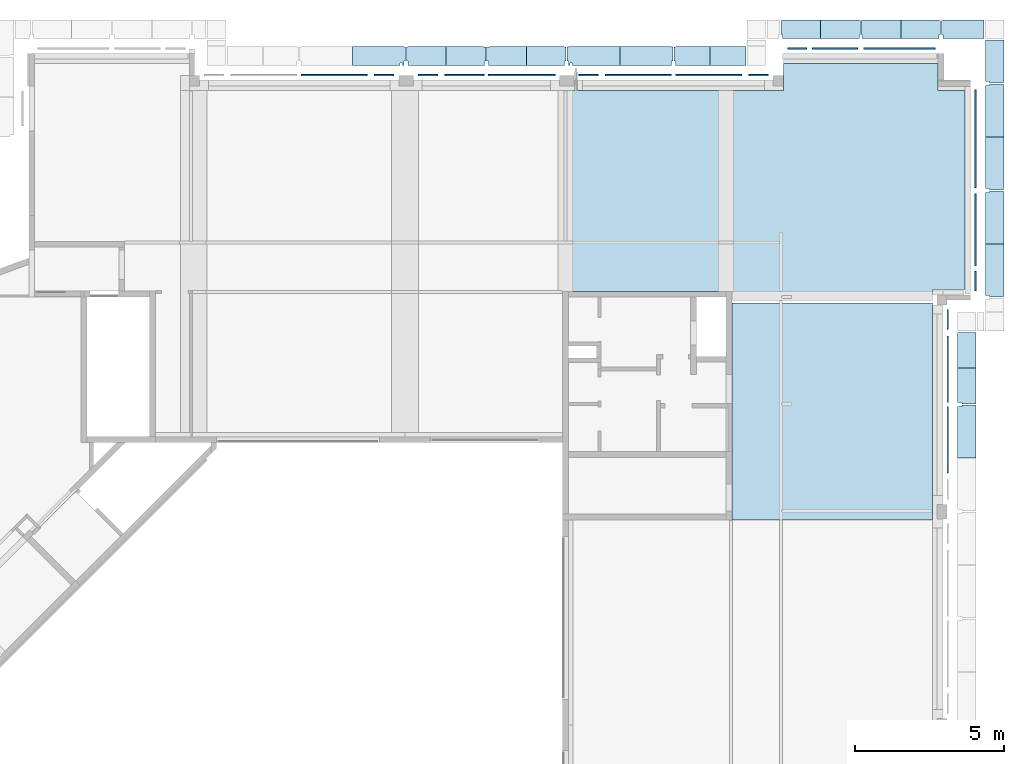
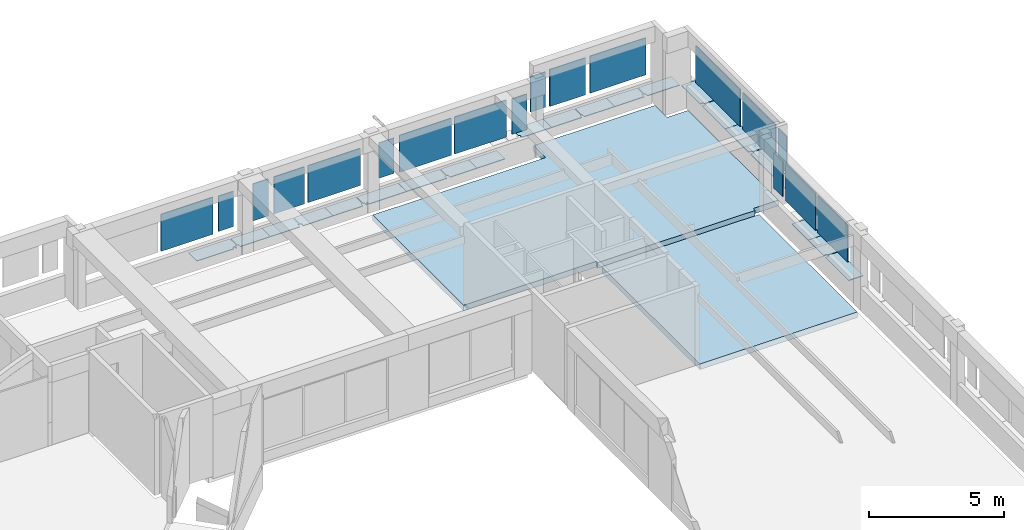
# One storey, part 9 of 26: 24 slabs, 18 plates.
"""IFC4X3_ADD2 building model written with IfcOpenShell, lengths in millimetres."""

from ifc_helpers import new_model, si_unit, direction, frame, frame_2d, origin_with_axes, origin_2d_with_axis, place, context, subcontext, project, spatial, polyline, rectangle, outline, extrude, source, transform, mapped, material, type_object, element, save


model = new_model("IFC4X3_ADD2")

# Units and contexts
model_context = context("Model", 3, precision=1e-05, world=origin_with_axes(), true_north=direction((0.0, 1.0)))
body_context = subcontext(model_context, "Body", "Model", "MODEL_VIEW")
ifc_project = project(units=[si_unit("LENGTHUNIT", "METRE", prefix="MILLI"), si_unit("AREAUNIT", "SQUARE_METRE"), si_unit("VOLUMEUNIT", "CUBIC_METRE"), si_unit("PLANEANGLEUNIT", "RADIAN"), si_unit("TIMEUNIT", "SECOND"), si_unit("MASSUNIT", "GRAM")], contexts=[model_context])

# Site, building, storey
site_placement = place(None, origin_with_axes())
site = spatial("IfcSite", under=ifc_project, at=site_placement, Name="Site", CompositionType="ELEMENT")
building_placement = place(site_placement, origin_with_axes())
building = spatial("IfcBuilding", under=site, at=building_placement, Name="IFC Building Story")
storey_placement = place(building_placement, frame((0.0, 0.0, 7200.0), z_axis=(0.0, 0.0, 1.0), x_axis=(1.0, 0.0, 0.0)))
storey = spatial("IfcBuildingStorey", under=building, at=storey_placement, Name="020", Elevation=7200.0)

# Plates
ifc_material_1 = material(Name="BB_Glas")
shared_shape_1 = source(origin_with_axes(), body_context, "Body", "SweptSolid", [
    extrude(rectangle(XDim=1602.000000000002, YDim=652.000000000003, at=frame_2d((0.0, 0.0), x_axis=(0.0, 1.0))), frame((0.0, 0.0, -44.0), z_axis=(0.0, 0.0, 1.0), x_axis=(1.0, 0.0, 0.0)), (0.0, 0.0, 1.0), 44.0),
])
plate_1_placement = place(storey_placement, frame((1222.50000000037, 44044.0, 1765.0), z_axis=(1.0, 0.0, 0.0), x_axis=(0.0, 1.0, 0.0)))
element("IfcPlate", 1, at=plate_1_placement, inside=storey, material=ifc_material_1, Name="BB_07.06_Buitenbeglazing, rechthoekig_GMO:07.06.72#01_Drievoudige beglazing, 44 mm, A/A*/A", ObjectType="BB_07.06_Buitenbeglazing, rechthoekig_GMO:07.06.72#01_Drievoudige beglazing, 44 mm, A/A*/A", PredefinedType="USERDEFINED", context=body_context, shape_type="MappedRepresentation", body=[
    mapped(shared_shape_1, transform((0.0, 0.0, 0.0))),
])
shared_shape_2 = source(origin_with_axes(), body_context, "Body", "SweptSolid", [
    extrude(rectangle(XDim=2432.0, YDim=1680.000000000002, at=origin_2d_with_axis()), frame((0.0, 0.0, -44.0), z_axis=(0.0, 0.0, 1.0), x_axis=(1.0, 0.0, 0.0)), (0.0, 0.0, 1.0), 44.0),
])
plate_2_placement = place(storey_placement, frame((1222.50000000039, 45764.0, 1765.0), z_axis=(1.0, 0.0, 0.0), x_axis=(0.0, 1.0, 0.0)))
element("IfcPlate", 2, at=plate_2_placement, inside=storey, material=ifc_material_1, Name="BB_07.06_Buitenbeglazing, rechthoekig_GMO:07.06.72#01_Drievoudige beglazing, 44 mm, A/A*/A", ObjectType="BB_07.06_Buitenbeglazing, rechthoekig_GMO:07.06.72#01_Drievoudige beglazing, 44 mm, A/A*/A", PredefinedType="USERDEFINED", context=body_context, shape_type="MappedRepresentation", body=[
    mapped(shared_shape_2, transform((0.0, 0.0, 0.0))),
])
shared_shape_3 = source(origin_with_axes(), body_context, "Body", "SweptSolid", [
    extrude(rectangle(XDim=1602.000000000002, YDim=652.0000000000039, at=frame_2d((0.0, 0.0), x_axis=(0.0, 1.0))), frame((0.0, 0.0, -44.0), z_axis=(0.0, 0.0, 1.0), x_axis=(1.0, 0.0, 0.0)), (0.0, 0.0, 1.0), 44.0),
])
for number, where, z_axis, x_axis in (
    (3, (287.500000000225, 42736.0, 1765.0), (1.0, 0.0, 0.0), (0.0, -1.0, 0.0)),
    (4, (-4801.0, 51887.5000000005, 1765.0), (0.0, 1.0, 0.0), (1.0, 0.0, 0.0)),
    (5, (-11821.0, 50987.5000000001, 1765.0), (0.0, 1.0, 0.0), (1.0, 0.0, 0.0)),
    (6, (-6109.0, 50987.5000000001, 1765.0), (0.0, 1.0, 0.0), (1.0, 0.0, 0.0)),
    (7, (-18709.0, 50987.5000000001, 1765.0), (0.0, 1.0, 0.0), (1.0, 0.0, 0.0)),
):
    element("IfcPlate", number, at=place(storey_placement, frame(where, z_axis=z_axis, x_axis=x_axis)), inside=storey, material=ifc_material_1, Name="BB_07.06_Buitenbeglazing, rechthoekig_GMO:07.06.72#01_Drievoudige beglazing, 44 mm, A/A*/A", ObjectType="BB_07.06_Buitenbeglazing, rechthoekig_GMO:07.06.72#01_Drievoudige beglazing, 44 mm, A/A*/A", PredefinedType="USERDEFINED", context=body_context, shape_type="MappedRepresentation", body=[
        mapped(shared_shape_3, transform((0.0, 0.0, 0.0))),
    ])
shared_shape_4 = source(origin_with_axes(), body_context, "Body", "SweptSolid", [
    extrude(rectangle(XDim=1680.000000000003, YDim=1532.000000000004, at=frame_2d((0.0, 0.0), x_axis=(0.0, 1.0))), frame((0.0, 0.0, -44.0), z_axis=(0.0, 0.0, 1.0), x_axis=(1.0, 0.0, 0.0)), (0.0, 0.0, 1.0), 44.0),
])
plate_3_placement = place(storey_placement, frame((-3531.0, 51887.5000000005, 1765.0), z_axis=(0.0, 1.0, 0.0), x_axis=(1.0, 0.0, 0.0)))
element("IfcPlate", 8, at=plate_3_placement, inside=storey, material=ifc_material_1, Name="BB_07.06_Buitenbeglazing, rechthoekig_GMO:07.06.72#01_Drievoudige beglazing, 44 mm, A/A*/A", ObjectType="BB_07.06_Buitenbeglazing, rechthoekig_GMO:07.06.72#01_Drievoudige beglazing, 44 mm, A/A*/A", PredefinedType="USERDEFINED", context=body_context, shape_type="MappedRepresentation", body=[
    mapped(shared_shape_4, transform((0.0, 0.0, 0.0))),
])
shared_shape_5 = source(origin_with_axes(), body_context, "Body", "SweptSolid", [
    extrude(rectangle(XDim=2400.0, YDim=1680.000000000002, at=origin_2d_with_axis()), frame((0.0, 0.0, -44.0), z_axis=(0.0, 0.0, 1.0), x_axis=(1.0, 0.0, 0.0)), (0.0, 0.0, 1.0), 44.0),
])
plate_4_placement = place(storey_placement, frame((-1365.0, 51887.5000000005, 1765.0), z_axis=(0.0, 1.0, 0.0), x_axis=(1.0, 0.0, 0.0)))
element("IfcPlate", 9, at=plate_4_placement, inside=storey, material=ifc_material_1, Name="BB_07.06_Buitenbeglazing, rechthoekig_GMO:07.06.72#01_Drievoudige beglazing, 44 mm, A/A*/A", ObjectType="BB_07.06_Buitenbeglazing, rechthoekig_GMO:07.06.72#01_Drievoudige beglazing, 44 mm, A/A*/A", PredefinedType="USERDEFINED", context=body_context, shape_type="MappedRepresentation", body=[
    mapped(shared_shape_5, transform((0.0, 0.0, 0.0))),
])
shared_shape_6 = source(origin_with_axes(), body_context, "Body", "SweptSolid", [
    extrude(rectangle(XDim=2222.0, YDim=1680.000000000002, at=origin_2d_with_axis()), frame((0.0, 0.0, -44.0), z_axis=(0.0, 0.0, 1.0), x_axis=(1.0, 0.0, 0.0)), (0.0, 0.0, 1.0), 44.0),
])
for number, where, z_axis, x_axis in (
    (10, (287.500000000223, 41061.0, 1765.0), (1.0, 0.0, 0.0), (0.0, -1.0, 0.0)),
    (11, (287.50000000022, 38699.0, 1765.0), (1.0, 0.0, 0.0), (0.0, -1.0, 0.0)),
    (12, (-10146.0, 50987.5000000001, 1765.0), (0.0, 1.0, 0.0), (1.0, 0.0, 0.0)),
    (13, (-7784.0, 50987.5000000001, 1765.0), (0.0, 1.0, 0.0), (1.0, 0.0, 0.0)),
    (14, (-20384.0, 50987.5000000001, 1765.0), (0.0, 1.0, 0.0), (1.0, 0.0, 0.0)),
):
    element("IfcPlate", number, at=place(storey_placement, frame(where, z_axis=z_axis, x_axis=x_axis)), inside=storey, material=ifc_material_1, Name="BB_07.06_Buitenbeglazing, rechthoekig_GMO:07.06.72#01_Drievoudige beglazing, 44 mm, A/A*/A", ObjectType="BB_07.06_Buitenbeglazing, rechthoekig_GMO:07.06.72#01_Drievoudige beglazing, 44 mm, A/A*/A", PredefinedType="USERDEFINED", context=body_context, shape_type="MappedRepresentation", body=[
        mapped(shared_shape_6, transform((0.0, 0.0, 0.0))),
    ])
shared_shape_7 = source(origin_with_axes(), body_context, "Body", "SweptSolid", [
    extrude(rectangle(XDim=3300.0, YDim=1680.000000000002, at=origin_2d_with_axis()), frame((0.0, 0.0, -44.0), z_axis=(0.0, 0.0, 1.0), x_axis=(1.0, 0.0, 0.0)), (0.0, 0.0, 1.0), 44.0),
])
plate_5_placement = place(storey_placement, frame((1222.50000000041, 48830.0, 1765.0), z_axis=(1.0, 0.0, 0.0), x_axis=(0.0, 1.0, 0.0)))
element("IfcPlate", 15, at=plate_5_placement, inside=storey, material=ifc_material_1, Name="BB_07.06_Buitenbeglazing, rechthoekig_GMO:07.06.72#01_Drievoudige beglazing, 44 mm, A/A*/A", ObjectType="BB_07.06_Buitenbeglazing, rechthoekig_GMO:07.06.72#01_Drievoudige beglazing, 44 mm, A/A*/A", PredefinedType="USERDEFINED", context=body_context, shape_type="MappedRepresentation", body=[
    mapped(shared_shape_7, transform((0.0, 0.0, 0.0))),
])
shared_shape_8 = source(origin_with_axes(), body_context, "Body", "SweptSolid", [
    extrude(rectangle(XDim=2250.0, YDim=1680.000000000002, at=origin_2d_with_axis()), frame((0.0, 0.0, -44.0), z_axis=(0.0, 0.0, 1.0), x_axis=(1.0, 0.0, 0.0)), (0.0, 0.0, 1.0), 44.0),
])
plate_6_placement = place(storey_placement, frame((-14070.0, 50987.5000000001, 1765.0), z_axis=(0.0, 1.0, 0.0), x_axis=(-1.0, 0.0, 0.0)))
element("IfcPlate", 16, at=plate_6_placement, inside=storey, material=ifc_material_1, Name="BB_07.06_Buitenbeglazing, rechthoekig_GMO:07.06.72#01_Drievoudige beglazing, 44 mm, A/A*/A", ObjectType="BB_07.06_Buitenbeglazing, rechthoekig_GMO:07.06.72#01_Drievoudige beglazing, 44 mm, A/A*/A", PredefinedType="USERDEFINED", context=body_context, shape_type="MappedRepresentation", body=[
    mapped(shared_shape_8, transform((0.0, 0.0, 0.0))),
])
shared_shape_9 = source(origin_with_axes(), body_context, "Body", "SweptSolid", [
    extrude(rectangle(XDim=1680.000000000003, YDim=1322.000000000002, at=frame_2d((0.0, 0.0), x_axis=(0.0, 1.0))), frame((0.0, 0.0, -44.0), z_axis=(0.0, 0.0, 1.0), x_axis=(1.0, 0.0, 0.0)), (0.0, 0.0, 1.0), 44.0),
])
plate_7_placement = place(storey_placement, frame((-15996.0, 50987.5000000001, 1765.0), z_axis=(0.0, 1.0, 0.0), x_axis=(-1.0, 0.0, 0.0)))
element("IfcPlate", 17, at=plate_7_placement, inside=storey, material=ifc_material_1, Name="BB_07.06_Buitenbeglazing, rechthoekig_GMO:07.06.72#01_Drievoudige beglazing, 44 mm, A/A*/A", ObjectType="BB_07.06_Buitenbeglazing, rechthoekig_GMO:07.06.72#01_Drievoudige beglazing, 44 mm, A/A*/A", PredefinedType="USERDEFINED", context=body_context, shape_type="MappedRepresentation", body=[
    mapped(shared_shape_9, transform((0.0, 0.0, 0.0))),
])
shared_shape_10 = source(origin_with_axes(), body_context, "Body", "SweptSolid", [
    extrude(rectangle(XDim=1680.000000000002, YDim=652.000000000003, at=frame_2d((0.0, 0.0), x_axis=(0.0, 1.0))), frame((0.0, 0.0, -44.0), z_axis=(0.0, 0.0, 1.0), x_axis=(1.0, 0.0, 0.0)), (0.0, 0.0, 1.0), 44.0),
])
plate_8_placement = place(storey_placement, frame((-17221.0, 50987.5000000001, 1765.0), z_axis=(0.0, 1.0, 0.0), x_axis=(-1.0, 0.0, 0.0)))
element("IfcPlate", 18, at=plate_8_placement, inside=storey, material=ifc_material_1, Name="BB_07.06_Buitenbeglazing, rechthoekig_GMO:07.06.72#01_Drievoudige beglazing, 44 mm, A/A*/A", ObjectType="BB_07.06_Buitenbeglazing, rechthoekig_GMO:07.06.72#01_Drievoudige beglazing, 44 mm, A/A*/A", PredefinedType="USERDEFINED", context=body_context, shape_type="MappedRepresentation", body=[
    mapped(shared_shape_10, transform((0.0, 0.0, 0.0))),
])

# Slabs
ifc_material_2 = material(Name="BB_Beton_Bestaand")
slab_type_1 = type_object("IfcSlabType", Name="BB_Beton_Bestaand 260", PredefinedType="FLOOR", material=ifc_material_2)
slab_1_placement = place(storey_placement, frame((-6999.99999999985, 43295.00000000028, -460.0), z_axis=(0.0, 0.0, 1.0), x_axis=(0.0, -1.0, 0.0)))
element("IfcSlab", 19, at=slab_1_placement, inside=storey, type_object=slab_type_1, Name="Floor:BB_XX_Vloer welfsels, 260 mm", ObjectType="Floor:BB_XX_Vloer welfsels, 260 mm", PredefinedType="FLOOR", context=body_context, shape_type="SweptSolid", body=[
    extrude(rectangle(XDim=7295.000000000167, YDim=6755.00000000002, at=frame_2d((0.0, 0.0), x_axis=(-1.0, 0.0))), frame((3647.500000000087, 3377.500000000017, 0.0), z_axis=(0.0, 0.0, 1.0), x_axis=(1.0, 0.0, 0.0)), (0.0, 0.0, 1.0), 260.0),
])
slab_2_placement = place(storey_placement, frame((-12700.00406588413, 43595.00000000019, -460.0), z_axis=(0.0, 0.0, 1.0), x_axis=(1.0, 0.0, 0.0)))
element("IfcSlab", 20, at=slab_2_placement, inside=storey, type_object=slab_type_1, Name="Floor:BB_XX_Vloer welfsels, 260 mm", ObjectType="Floor:BB_XX_Vloer welfsels, 260 mm", PredefinedType="FLOOR", context=body_context, shape_type="SweptSolid", body=[
    extrude(outline(polyline([(-2927.499322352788, -3620.833333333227), (-2927.499322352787, -3525.833333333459), (-8627.503388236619, -3525.833333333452), (-8627.503388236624, 3239.166666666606), (-1197.499322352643, 3239.166666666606), (-1197.499322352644, 4139.166666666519), (4012.500677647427, 4139.166666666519), (4012.500677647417, 3239.166666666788), (4912.500677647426, 3239.166666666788), (4912.500677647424, -3470.833333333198), (3827.500677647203, -3470.833333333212), (3827.500677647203, -3620.833333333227), (-2927.499322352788, -3620.833333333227)])), frame((8627.503388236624, 3620.833333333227, 0.0), z_axis=(0.0, 0.0, 1.0), x_axis=(1.0, 0.0, 0.0)), (0.0, 0.0, 1.0), 260.0),
])
ifc_material_3 = material(Name="Steel, Galvanized - looprooster")
slab_type_2 = type_object("IfcSlabType", Name="Steel, Galvanized - looprooster 30", PredefinedType="FLOOR", material=ifc_material_3)
slab_3_placement = place(storey_placement, frame((-19764.49796376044, 51289.99839785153, -350.0), z_axis=(0.0, 0.0, 1.0), x_axis=(1.0, 0.0, 0.0)))
element("IfcSlab", 21, at=slab_3_placement, inside=storey, type_object=slab_type_2, Name="Floor:GVH - Looprooster 30 mm", ObjectType="Floor:GVH - Looprooster 30 mm", PredefinedType="FLOOR", context=body_context, shape_type="SweptSolid", body=[
    extrude(outline(polyline([(178.0813454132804, -156.6647847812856), (178.0813454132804, -246.6679890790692), (-1421.416654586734, -246.6679890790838), (-1421.416654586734, 383.3320109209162), (311.0912729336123, 383.3320109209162), (311.0912729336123, 368.3342997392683), (363.0813454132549, 368.3342997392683), (363.0813454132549, -101.6655477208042), (311.081345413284, -101.6655477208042), (311.081345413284, -246.6679890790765), (258.0813454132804, -246.6679890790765), (258.0813454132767, -156.6647847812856), (178.0813454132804, -156.6647847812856)])), frame((1421.416654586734, 246.6679890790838, 0.0), z_axis=(0.0, 0.0, 1.0), x_axis=(1.0, 0.0, 0.0)), (0.0, 0.0, 1.0), 29.9999999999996),
])
slab_4_placement = place(storey_placement, frame((-16614.99796376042, 51289.99839785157, -350.0), z_axis=(0.0, 0.0, 1.0), x_axis=(1.0, 0.0, 0.0)))
element("IfcSlab", 22, at=slab_4_placement, inside=storey, type_object=slab_type_2, Name="Floor:GVH - Looprooster 30 mm", ObjectType="Floor:GVH - Looprooster 30 mm", PredefinedType="FLOOR", context=body_context, shape_type="SweptSolid", body=[
    extrude(outline(polyline([(316.4994999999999, -202.4986040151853), (316.4994999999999, -347.5010453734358), (-966.4985000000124, -347.5010453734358), (-966.4985000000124, 282.4989546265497), (281.499500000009, 282.4989546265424), (281.499500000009, 267.5006947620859), (368.4995000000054, 267.5006947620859), (368.4995000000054, -202.4986040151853), (316.4994999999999, -202.4986040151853)])), frame((966.4985000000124, 347.5010453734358, 0.0), z_axis=(0.0, 0.0, 1.0), x_axis=(1.0, 0.0, 0.0)), (0.0, 0.0, 1.0), 29.99999999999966),
])
slab_5_placement = place(storey_placement, frame((-4015.00196376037, 52189.99783771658, -350.0), z_axis=(0.0, 0.0, 1.0), x_axis=(1.0, 0.0, 0.0)))
element("IfcSlab", 23, at=slab_5_placement, inside=storey, type_object=slab_type_2, Name="Floor:GVH - Looprooster 30 mm", ObjectType="Floor:GVH - Looprooster 30 mm", PredefinedType="FLOOR", context=body_context, shape_type="SweptSolid", body=[
    extrude(outline(polyline([(323.7503861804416, -202.4983239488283), (323.7503861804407, -347.5013254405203), (-976.2514740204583, -347.5013254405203), (-976.2514740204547, 282.4986745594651), (293.7505618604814, 282.4986745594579), (293.7505618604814, 267.5009748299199), (358.7505259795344, 267.5009748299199), (358.7505259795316, -202.4983239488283), (323.7503861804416, -202.4983239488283)])), frame((976.2514740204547, 347.5013254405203, 0.0), z_axis=(0.0, 0.0, 1.0), x_axis=(1.0, 0.0, 0.0)), (0.0, 0.0, 1.0), 29.99999999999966),
])
slab_6_placement = place(storey_placement, frame((589.998741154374, 41102.49796376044, -350.0), z_axis=(0.0, 0.0, 1.0), x_axis=(0.0, -1.0, 0.0)))
element("IfcSlab", 24, at=slab_6_placement, inside=storey, type_object=slab_type_2, Name="Floor:GVH - Looprooster 30 mm", ObjectType="Floor:GVH - Looprooster 30 mm", PredefinedType="FLOOR", context=body_context, shape_type="SweptSolid", body=[
    extrude(outline(polyline([(327.8744999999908, -202.4983463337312), (275.8744999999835, -202.4983463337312), (275.8744999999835, -347.5004367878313), (-879.6234999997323, -347.5004367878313), (-879.6234999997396, 282.4992199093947), (275.8744999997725, 282.4992199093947), (275.8744999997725, 267.4995632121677), (327.8744999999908, 267.4995632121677), (327.8744999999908, -202.4983463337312)])), frame((879.6234999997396, 347.5004367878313, 0.0), z_axis=(0.0, 0.0, 1.0), x_axis=(1.0, 0.0, 0.0)), (0.0, 0.0, 1.0), 29.99999999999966),
])
slab_7_placement = place(storey_placement, frame((-17949.99596376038, 51289.99839785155, -350.0), z_axis=(0.0, 0.0, 1.0), x_axis=(1.0, 0.0, 0.0)))
element("IfcSlab", 25, at=slab_7_placement, inside=storey, type_object=slab_type_2, Name="Floor:GVH - Looprooster 30 mm", ObjectType="Floor:GVH - Looprooster 30 mm", PredefinedType="FLOOR", context=body_context, shape_type="SweptSolid", body=[
    extrude(outline(polyline([(-307.75098188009, -347.501045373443), (-307.75098188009, -202.498604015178), (-359.7509818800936, -202.498604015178), (-359.7509818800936, 267.5006947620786), (-307.7450543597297, 267.5006947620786), (-307.7450543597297, 282.4989546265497), (975.2470181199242, 282.4989546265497), (975.2470181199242, -347.501045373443), (-307.75098188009, -347.501045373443)])), frame((359.7509818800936, 347.501045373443, 0.0), z_axis=(0.0, 0.0, 1.0), x_axis=(1.0, 0.0, 0.0)), (0.0, 0.0, 1.0), 29.99999999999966),
])
slab_8_placement = place(storey_placement, frame((-13914.49796376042, 51289.99797688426, -350.0), z_axis=(0.0, 0.0, 1.0), x_axis=(1.0, 0.0, 0.0)))
element("IfcSlab", 26, at=slab_8_placement, inside=storey, type_object=slab_type_2, Name="Floor:GVH - Looprooster 30 mm", ObjectType="Floor:GVH - Looprooster 30 mm", PredefinedType="FLOOR", context=body_context, shape_type="SweptSolid", body=[
    extrude(outline(polyline([(307.6220181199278, -202.4986040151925), (307.6220181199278, -347.501045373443), (-974.8759818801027, -347.5010453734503), (-974.8759818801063, 282.4989546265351), (307.6319456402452, 282.4989546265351), (307.6319456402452, 267.5006947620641), (359.6220181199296, 267.5006947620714), (359.6220181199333, -202.4986040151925), (307.6220181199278, -202.4986040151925)])), frame((974.8759818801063, 347.5010453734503, 0.0), z_axis=(0.0, 0.0, 1.0), x_axis=(1.0, 0.0, 0.0)), (0.0, 0.0, 1.0), 29.99999999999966),
])
slab_9_placement = place(storey_placement, frame((-15249.9959637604, 51289.99797688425, -350.0), z_axis=(0.0, 0.0, 1.0), x_axis=(1.0, 0.0, 0.0)))
element("IfcSlab", 27, at=slab_9_placement, inside=storey, type_object=slab_type_2, Name="Floor:GVH - Looprooster 30 mm", ObjectType="Floor:GVH - Looprooster 30 mm", PredefinedType="FLOOR", context=body_context, shape_type="SweptSolid", body=[
    extrude(outline(polyline([(-316.4974999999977, -347.5010453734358), (-316.4974999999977, -202.498604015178), (-368.4975000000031, -202.498604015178), (-368.4975000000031, 267.5006947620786), (-281.5014999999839, 267.5006947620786), (-281.5014999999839, 282.498954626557), (966.4964999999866, 282.498954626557), (966.4964999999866, -347.5010453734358), (-316.4974999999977, -347.5010453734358)])), frame((368.4975000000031, 347.5010453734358, 0.0), z_axis=(0.0, 0.0, 1.0), x_axis=(1.0, 0.0, 0.0)), (0.0, 0.0, 1.0), 29.99999999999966),
])
slab_10_placement = place(storey_placement, frame((-12549.99596376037, 51289.99839785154, -350.0), z_axis=(0.0, 0.0, 1.0), x_axis=(1.0, 0.0, 0.0)))
element("IfcSlab", 28, at=slab_10_placement, inside=storey, type_object=slab_type_2, Name="Floor:GVH - Looprooster 30 mm", ObjectType="Floor:GVH - Looprooster 30 mm", PredefinedType="FLOOR", context=body_context, shape_type="SweptSolid", body=[
    extrude(outline(polyline([(-311.0833212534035, -246.667989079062), (-311.0833212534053, -101.6655477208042), (-363.0833212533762, -101.6655477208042), (-363.0833212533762, 368.3342997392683), (-311.0773937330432, 368.3342997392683), (-311.0773937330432, 383.3320109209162), (1421.41067874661, 383.3320109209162), (1421.41067874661, -246.667989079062), (-178.0833212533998, -246.6679890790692), (-178.0833212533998, -156.6647847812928), (-258.0833212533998, -156.6647847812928), (-258.0833212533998, -246.667989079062), (-311.0833212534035, -246.667989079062)])), frame((363.0833212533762, 246.6679890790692, 0.0), z_axis=(0.0, 0.0, 1.0), x_axis=(1.0, 0.0, 0.0)), (0.0, 0.0, 1.0), 29.9999999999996),
])
slab_11_placement = place(storey_placement, frame((-10764.49796185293, 51289.99839785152, -350.0), z_axis=(0.0, 0.0, 1.0), x_axis=(1.0, 0.0, 0.0)))
element("IfcSlab", 29, at=slab_11_placement, inside=storey, type_object=slab_type_2, Name="Floor:GVH - Looprooster 30 mm", ObjectType="Floor:GVH - Looprooster 30 mm", PredefinedType="FLOOR", context=body_context, shape_type="SweptSolid", body=[
    extrude(outline(polyline([(420.1240176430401, -202.5005722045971), (420.1240176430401, -347.5005722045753), (-1312.37798044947, -347.5005722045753), (-1312.37798044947, 282.4994277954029), (420.1299451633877, 282.4994277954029), (420.1299451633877, 267.5017166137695), (472.1240176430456, 267.5017166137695), (472.1240176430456, -202.5005722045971), (420.1240176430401, -202.5005722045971)])), frame((1312.37798044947, 347.5005722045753, 0.0), z_axis=(0.0, 0.0, 1.0), x_axis=(1.0, 0.0, 0.0)), (0.0, 0.0, 1.0), 29.99999999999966),
])
slab_12_placement = place(storey_placement, frame((-8949.999963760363, 51289.99595649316, -350.0), z_axis=(0.0, 0.0, 1.0), x_axis=(1.0, 0.0, 0.0)))
element("IfcSlab", 30, at=slab_12_placement, inside=storey, type_object=slab_type_2, Name="Floor:GVH - Looprooster 30 mm", ObjectType="Floor:GVH - Looprooster 30 mm", PredefinedType="FLOOR", context=body_context, shape_type="SweptSolid", body=[
    extrude(outline(polyline([(-275.876982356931, -347.5010453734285), (-275.8769823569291, -202.4986040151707), (-327.8769823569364, -202.4986040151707), (-327.8769823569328, 267.5006947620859), (-275.8670548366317, 267.5006947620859), (-275.8670548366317, 282.4989546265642), (879.6210195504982, 282.498954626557), (879.6210195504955, -347.5010453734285), (-275.876982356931, -347.5010453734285)])), frame((327.8769823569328, 347.5010453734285, 0.0), z_axis=(0.0, 0.0, 1.0), x_axis=(1.0, 0.0, 0.0)), (0.0, 0.0, 1.0), 29.99999999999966),
])
slab_13_placement = place(storey_placement, frame((-7741.499258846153, 51289.9959564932, -350.0), z_axis=(0.0, 0.0, 1.0), x_axis=(1.0, 0.0, 0.0)))
element("IfcSlab", 31, at=slab_13_placement, inside=storey, type_object=slab_type_2, Name="Floor:GVH - Looprooster 30 mm", ObjectType="Floor:GVH - Looprooster 30 mm", PredefinedType="FLOOR", context=body_context, shape_type="SweptSolid", body=[
    extrude(rectangle(XDim=1207.998000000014, YDim=629.9999999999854, at=origin_2d_with_axis()), frame((603.9990000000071, 314.9999999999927, 0.0), z_axis=(0.0, 0.0, 1.0), x_axis=(1.0, 0.0, 0.0)), (0.0, 0.0, 1.0), 29.99999999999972),
])
slab_14_placement = place(storey_placement, frame((-2649.999963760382, 52189.99783771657, -350.0), z_axis=(0.0, 0.0, 1.0), x_axis=(1.0, 0.0, 0.0)))
element("IfcSlab", 32, at=slab_14_placement, inside=storey, type_object=slab_type_2, Name="Floor:GVH - Looprooster 30 mm", ObjectType="Floor:GVH - Looprooster 30 mm", PredefinedType="FLOOR", context=body_context, shape_type="SweptSolid", body=[
    extrude(outline(polyline([(-323.7506469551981, -347.5013254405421), (-323.7506469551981, -202.4983239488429), (-358.7504256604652, -202.4983239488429), (-358.7504256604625, 267.5009748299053), (-293.7505017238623, 267.5009748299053), (-293.7505017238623, 282.4986745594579), (976.2515743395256, 282.4986745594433), (976.2515743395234, -347.5013254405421), (-323.7506469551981, -347.5013254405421)])), frame((358.7504256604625, 347.5013254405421, 0.0), z_axis=(0.0, 0.0, 1.0), x_axis=(1.0, 0.0, 0.0)), (0.0, 0.0, 1.0), 29.99999999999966),
])
slab_15_placement = place(storey_placement, frame((-1314.498088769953, 52189.99783771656, -350.0), z_axis=(0.0, 0.0, 1.0), x_axis=(1.0, 0.0, 0.0)))
element("IfcSlab", 33, at=slab_15_placement, inside=storey, type_object=slab_type_2, Name="Floor:GVH - Looprooster 30 mm", ObjectType="Floor:GVH - Looprooster 30 mm", PredefinedType="FLOOR", context=body_context, shape_type="SweptSolid", body=[
    extrude(outline(polyline([(307.6265502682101, -202.4983239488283), (307.6265502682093, -347.5013254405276), (-974.8755747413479, -347.5013254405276), (-974.8755747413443, 282.4986745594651), (307.6224742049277, 282.4986745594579), (307.6224742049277, 267.5009748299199), (359.6265502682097, 267.5009748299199), (359.626550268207, -202.4983239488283), (307.6265502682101, -202.4983239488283)])), frame((974.8755747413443, 347.5013254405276, 0.0), z_axis=(0.0, 0.0, 1.0), x_axis=(1.0, 0.0, 0.0)), (0.0, 0.0, 1.0), 29.99999999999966),
])
slab_16_placement = place(storey_placement, frame((50.00003623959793, 52189.99783771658, -350.0), z_axis=(0.0, 0.0, 1.0), x_axis=(1.0, 0.0, 0.0)))
element("IfcSlab", 34, at=slab_16_placement, inside=storey, type_object=slab_type_2, Name="Floor:GVH - Looprooster 30 mm", ObjectType="Floor:GVH - Looprooster 30 mm", PredefinedType="FLOOR", context=body_context, shape_type="SweptSolid", body=[
    extrude(outline(polyline([(-333.1274452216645, -347.5013254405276), (-333.1274452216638, -202.4983239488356), (-385.1274452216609, -202.4983239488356), (-385.1274452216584, 267.5009748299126), (-333.1275212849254, 267.5009748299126), (-333.1275212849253, 282.4986745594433), (1051.382411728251, 282.4986745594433), (1051.382411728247, -347.5013254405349), (-333.1274452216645, -347.5013254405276)])), frame((385.1274452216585, 347.5013254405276, 0.0), z_axis=(0.0, 0.0, 1.0), x_axis=(1.0, 0.0, 0.0)), (0.0, 0.0, 1.0), 29.99999999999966),
])
slab_17_placement = place(storey_placement, frame((589.998741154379, 39864.99996376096, -350.0), z_axis=(0.0, 0.0, 1.0), x_axis=(0.0, -1.0, 0.0)))
element("IfcSlab", 35, at=slab_17_placement, inside=storey, type_object=slab_type_2, Name="Floor:GVH - Looprooster 30 mm", ObjectType="Floor:GVH - Looprooster 30 mm", PredefinedType="FLOOR", context=body_context, shape_type="SweptSolid", body=[
    extrude(outline(polyline([(-420.1254818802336, 282.4992180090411), (1312.372518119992, 282.4992180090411), (1312.372518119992, -347.5004386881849), (-420.1215543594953, -347.5004386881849), (-420.1215543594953, -202.4983406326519), (-472.1254818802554, -202.4983406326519), (-472.1254818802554, 267.4995613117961), (-420.1254818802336, 267.4995613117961), (-420.1254818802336, 282.4992180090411)])), frame((472.1254818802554, 347.5004386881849, 0.0), z_axis=(0.0, 0.0, 1.0), x_axis=(1.0, 0.0, 0.0)), (0.0, 0.0, 1.0), 29.99999999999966),
])
slab_18_placement = place(storey_placement, frame((589.998741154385, 42311.50010681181, -350.0), z_axis=(0.0, 0.0, 1.0), x_axis=(0.0, -1.0, 0.0)))
element("IfcSlab", 36, at=slab_18_placement, inside=storey, type_object=slab_type_2, Name="Floor:GVH - Looprooster 30 mm", ObjectType="Floor:GVH - Looprooster 30 mm", PredefinedType="FLOOR", context=body_context, shape_type="SweptSolid", body=[
    extrude(rectangle(XDim=1207.998000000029, YDim=629.9996566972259, at=frame_2d((0.0, 0.0), x_axis=(-1.0, 0.0))), frame((603.9990000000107, 314.9998283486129, 0.0), z_axis=(0.0, 0.0, 1.0), x_axis=(1.0, 0.0, 0.0)), (0.0, 0.0, 1.0), 29.99999999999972),
])
slab_19_placement = place(storey_placement, frame((-5350.00396376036, 52189.99783771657, -350.0), z_axis=(0.0, 0.0, 1.0), x_axis=(1.0, 0.0, 0.0)))
element("IfcSlab", 37, at=slab_19_placement, inside=storey, type_object=slab_type_2, Name="Floor:GVH - Looprooster 30 mm", ObjectType="Floor:GVH - Looprooster 30 mm", PredefinedType="FLOOR", context=body_context, shape_type="SweptSolid", body=[
    extrude(outline(polyline([(-307.6265094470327, -347.5013254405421), (-307.6265094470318, -202.4983239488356), (-359.6265094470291, -202.4983239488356), (-359.6265094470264, 267.5009748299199), (-307.6224735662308, 267.5009748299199), (-307.6224735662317, 282.4986745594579), (974.8754924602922, 282.4986745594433), (974.8754924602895, -347.5013254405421), (-307.6265094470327, -347.5013254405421)])), frame((359.6265094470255, 347.5013254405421, 0.0), z_axis=(0.0, 0.0, 1.0), x_axis=(1.0, 0.0, 0.0)), (0.0, 0.0, 1.0), 29.99999999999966),
])
slab_20_placement = place(storey_placement, frame((1524.998741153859, 52151.49874115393, -350.0), z_axis=(0.0, 0.0, 1.0), x_axis=(0.0, -1.0, 0.0)))
element("IfcSlab", 38, at=slab_20_placement, inside=storey, type_object=slab_type_2, Name="Floor:GVH - Looprooster 30 mm", ObjectType="Floor:GVH - Looprooster 30 mm", PredefinedType="FLOOR", context=body_context, shape_type="SweptSolid", body=[
    extrude(outline(polyline([(390.124694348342, -202.4983463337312), (338.1246943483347, -202.4983463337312), (338.1246943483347, -347.5004367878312), (-1066.374083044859, -347.5004367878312), (-1066.374083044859, 282.4992199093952), (338.1246943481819, 282.4992199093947), (338.1246943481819, 267.4995632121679), (390.1246943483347, 267.4995632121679), (390.124694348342, -202.4983463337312)])), frame((1066.374083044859, 347.5004367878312, 0.0), z_axis=(0.0, 0.0, 1.0), x_axis=(1.0, 0.0, 0.0)), (0.0, 0.0, 1.0), 29.99999999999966),
])
slab_21_placement = place(storey_placement, frame((1524.998741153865, 50664.99600000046, -350.0), z_axis=(0.0, 0.0, 1.0), x_axis=(0.0, -1.0, 0.0)))
element("IfcSlab", 39, at=slab_21_placement, inside=storey, type_object=slab_type_2, Name="Floor:GVH - Looprooster 30 mm", ObjectType="Floor:GVH - Looprooster 30 mm", PredefinedType="FLOOR", context=body_context, shape_type="SweptSolid", body=[
    extrude(outline(polyline([(-420.2524637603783, 282.4992180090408), (1312.749500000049, 282.4992180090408), (1312.749500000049, -347.5004386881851), (-420.2485362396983, -347.5004386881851), (-420.2485362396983, -202.4983406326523), (-472.2484999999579, -202.4983406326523), (-472.2484999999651, 267.4995613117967), (-420.2524637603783, 267.4995613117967), (-420.2524637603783, 282.4992180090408)])), frame((472.2484999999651, 347.5004386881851, 0.0), z_axis=(0.0, 0.0, 1.0), x_axis=(1.0, 0.0, 0.0)), (0.0, 0.0, 1.0), 29.99999999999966),
])
slab_22_placement = place(storey_placement, frame((1524.998741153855, 48879.49639785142, -350.0), z_axis=(0.0, 0.0, 1.0), x_axis=(0.0, -1.0, 0.0)))
element("IfcSlab", 40, at=slab_22_placement, inside=storey, type_object=slab_type_2, Name="Floor:GVH - Looprooster 30 mm", ObjectType="Floor:GVH - Looprooster 30 mm", PredefinedType="FLOOR", context=body_context, shape_type="SweptSolid", body=[
    extrude(outline(polyline([(480.8740813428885, -202.4983406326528), (428.8741175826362, -202.4983406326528), (428.8741175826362, -347.5004386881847), (-1303.62231650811, -347.5004386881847), (-1303.622316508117, 282.4992180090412), (393.8741175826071, 282.4992180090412), (393.8741175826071, 267.4995613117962), (480.8740813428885, 267.4995613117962), (480.8740813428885, -202.4983406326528)])), frame((1303.622316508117, 347.5004386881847, 0.0), z_axis=(0.0, 0.0, 1.0), x_axis=(1.0, 0.0, 0.0)), (0.0, 0.0, 1.0), 29.99999999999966),
])
slab_23_placement = place(storey_placement, frame((1524.998741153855, 47064.99839785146, -350.0), z_axis=(0.0, 0.0, 1.0), x_axis=(0.0, -1.0, 0.0)))
element("IfcSlab", 41, at=slab_23_placement, inside=storey, type_object=slab_type_2, Name="Floor:GVH - Looprooster 30 mm", ObjectType="Floor:GVH - Looprooster 30 mm", PredefinedType="FLOOR", context=body_context, shape_type="SweptSolid", body=[
    extrude(outline(polyline([(-393.9993836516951, 282.4992180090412), (1303.998473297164, 282.4992180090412), (1303.998473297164, -347.5004386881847), (-428.999562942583, -347.5004386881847), (-428.999562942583, -202.4983406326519), (-480.9995267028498, -202.4983406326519), (-480.9995267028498, 267.4995613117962), (-393.9993836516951, 267.4995613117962), (-393.9993836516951, 282.4992180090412)])), frame((480.9995267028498, 347.5004386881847, 0.0), z_axis=(0.0, 0.0, 1.0), x_axis=(1.0, 0.0, 0.0)), (0.0, 0.0, 1.0), 29.99999999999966),
])
slab_24_placement = place(storey_placement, frame((1524.998741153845, 45279.49803623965, -350.0), z_axis=(0.0, 0.0, 1.0), x_axis=(0.0, -1.0, 0.0)))
element("IfcSlab", 42, at=slab_24_placement, inside=storey, type_object=slab_type_2, Name="Floor:GVH - Looprooster 30 mm", ObjectType="Floor:GVH - Looprooster 30 mm", PredefinedType="FLOOR", context=body_context, shape_type="SweptSolid", body=[
    extrude(outline(polyline([(472.1233101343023, -202.4983406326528), (420.1233463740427, -202.4983406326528), (420.1233463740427, -347.5004386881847), (-1312.372328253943, -347.5004386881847), (-1312.372328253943, 282.4992180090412), (420.1256717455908, 282.4992180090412), (420.1256717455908, 267.4995613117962), (472.123310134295, 267.4995613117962), (472.1233101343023, -202.4983406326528)])), frame((1312.372328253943, 347.5004386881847, 0.0), z_axis=(0.0, 0.0, 1.0), x_axis=(1.0, 0.0, 0.0)), (0.0, 0.0, 1.0), 29.99999999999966),
])

save(model, "model.ifc")
